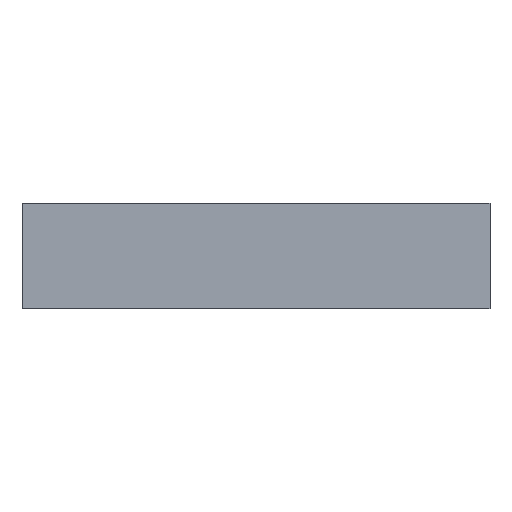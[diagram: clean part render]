
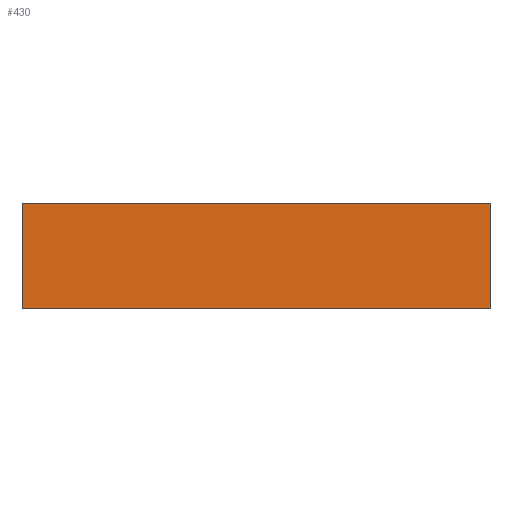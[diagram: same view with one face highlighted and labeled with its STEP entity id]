
A CAD part, front view. The second image highlights one B-rep face of the part: STEP entity #430.
In plain terms, the highlighted planar face has unit normal (0, -1, 0).
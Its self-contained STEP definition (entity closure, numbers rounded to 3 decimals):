
#47 = VERTEX_POINT ( 'NONE', #1122 ) ;
#139 = ORIENTED_EDGE ( 'NONE', *, *, #788, .T. ) ;
#204 = VERTEX_POINT ( 'NONE', #813 ) ;
#206 = EDGE_CURVE ( 'NONE', #463, #204, #1602, .T. ) ;
#245 = CARTESIAN_POINT ( 'NONE',  ( -21., -130., 0. ) ) ;
#269 = CARTESIAN_POINT ( 'NONE',  ( 21., -130., 9.5 ) ) ;
#303 = VERTEX_POINT ( 'NONE', #2016 ) ;
#342 = VECTOR ( 'NONE', #1033, 1000. ) ;
#430 = ADVANCED_FACE ( 'NONE', ( #681 ), #719, .F. ) ;
#463 = VERTEX_POINT ( 'NONE', #245 ) ;
#479 = EDGE_CURVE ( 'NONE', #47, #204, #1702, .T. ) ;
#564 = EDGE_LOOP ( 'NONE', ( #566, #793, #890, #139 ) ) ;
#566 = ORIENTED_EDGE ( 'NONE', *, *, #206, .T. ) ;
#576 = VECTOR ( 'NONE', #1462, 1000. ) ;
#681 = FACE_OUTER_BOUND ( 'NONE', #564, .T. ) ;
#719 = PLANE ( 'NONE',  #1238 ) ;
#743 = EDGE_CURVE ( 'NONE', #303, #47, #1489, .T. ) ;
#788 = EDGE_CURVE ( 'NONE', #303, #463, #1837, .T. ) ;
#793 = ORIENTED_EDGE ( 'NONE', *, *, #479, .F. ) ;
#813 = CARTESIAN_POINT ( 'NONE',  ( 21., -130., 0. ) ) ;
#890 = ORIENTED_EDGE ( 'NONE', *, *, #743, .F. ) ;
#909 = CARTESIAN_POINT ( 'NONE',  ( -21., -130., 9.5 ) ) ;
#993 = VECTOR ( 'NONE', #2039, 1000. ) ;
#1033 = DIRECTION ( 'NONE',  ( 1., 0., 0. ) ) ;
#1122 = CARTESIAN_POINT ( 'NONE',  ( 21., -130., 9.5 ) ) ;
#1238 = AXIS2_PLACEMENT_3D ( 'NONE', #1475, #1431, #1251 ) ;
#1240 = CARTESIAN_POINT ( 'NONE',  ( -21., -130., 0. ) ) ;
#1251 = DIRECTION ( 'NONE',  ( 0., 0., 1. ) ) ;
#1431 = DIRECTION ( 'NONE',  ( 0., 1., 0. ) ) ;
#1462 = DIRECTION ( 'NONE',  ( 1., 0., 0. ) ) ;
#1475 = CARTESIAN_POINT ( 'NONE',  ( -21., -130., 9.5 ) ) ;
#1489 = LINE ( 'NONE', #909, #576 ) ;
#1602 = LINE ( 'NONE', #1240, #342 ) ;
#1686 = CARTESIAN_POINT ( 'NONE',  ( -21., -130., 9.5 ) ) ;
#1702 = LINE ( 'NONE', #269, #1881 ) ;
#1722 = DIRECTION ( 'NONE',  ( 0., 0., -1. ) ) ;
#1837 = LINE ( 'NONE', #1686, #993 ) ;
#1881 = VECTOR ( 'NONE', #1722, 1000. ) ;
#2016 = CARTESIAN_POINT ( 'NONE',  ( -21., -130., 9.5 ) ) ;
#2039 = DIRECTION ( 'NONE',  ( 0., 0., -1. ) ) ;
